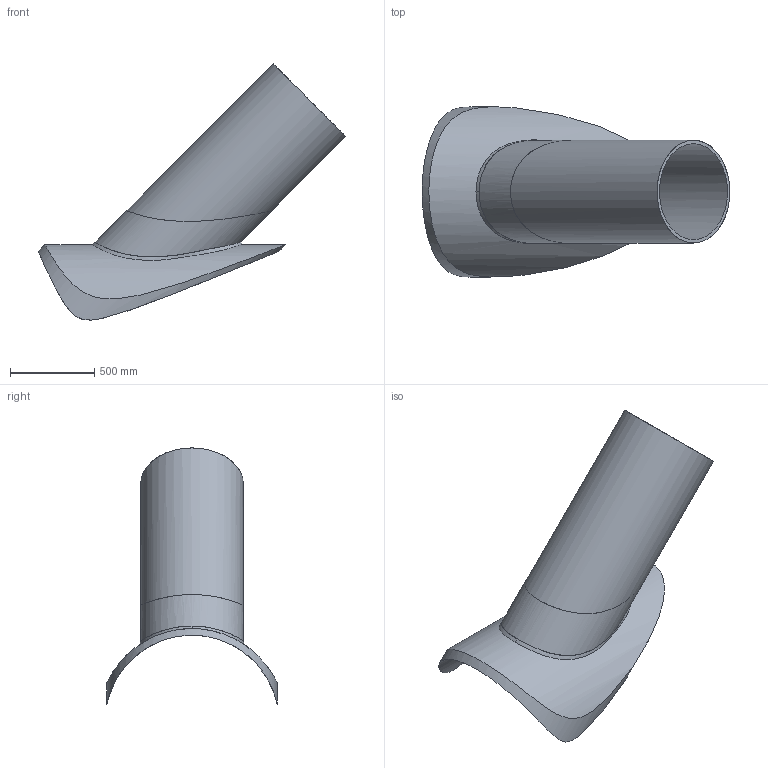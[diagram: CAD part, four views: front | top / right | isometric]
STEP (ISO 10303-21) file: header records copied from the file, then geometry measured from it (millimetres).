
FILE_DESCRIPTION( ( 'Unknown' ), '1' );
FILE_NAME( 'E:/Zeichnungen/Projekte/3d schweissen/bc7/CAD/knot boolean_with_hole_2.stp', 'Unknown', ( 'Unknown' ), ( 'Unknown' ), 'PSStep 13.0', 'Unknown', ' ' );
FILE_SCHEMA( ( 'AUTOMOTIVE_DESIGN { 1 0 10303 214 1 1 1 1 }' ) );
Length unit declared in the file: millimetre
Products named in the file (13): Assem1; weld intermediate face; weld solid modelled for boolean; boolean brace; chord_inside; chord_outside; inside weld; boolean brace short
Bounding box: 1828.07 x 1010.94 x 1521.78 mm (x, y, z)
Surface area: 19595947.2 mm2 (no closed solid volume)
Topology: 0 solids, 110 shells, 110 faces, 490 edges, 474 vertices
Faces by surface type: bspline 54, cylinder 30, offset 12, extrusion 12, plane 2
Full cylindrical faces by diameter (mm): 571 x6, 611 x4, 1011 x2
Entity records: 27616 total; most frequent: CARTESIAN_POINT 25659, ORIENTED_EDGE 232, EDGE_CURVE 232, VERTEX_POINT 232, B_SPLINE_CURVE_WITH_KNOTS 208, DIRECTION 98, FACE_BOUND 71, EDGE_LOOP 71
